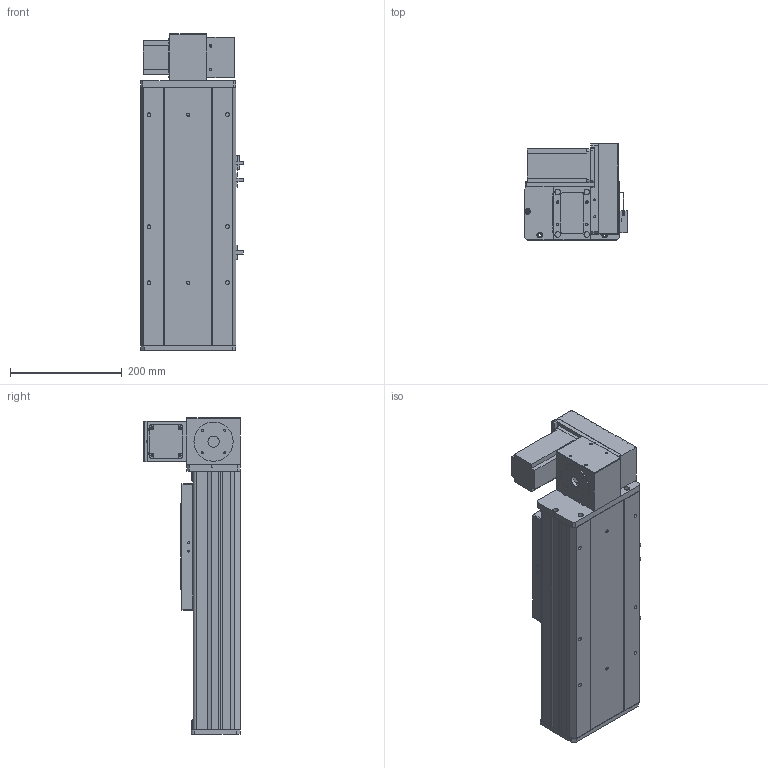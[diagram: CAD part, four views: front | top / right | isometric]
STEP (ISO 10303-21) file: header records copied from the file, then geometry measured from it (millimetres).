
FILE_DESCRIPTION (( 'STEP AP203' ), '1' );
FILE_NAME ('Y170CB-D105-S150-UR-P400W.STEP', '2020-02-20T03:36:38', ( '微软用户' ), ( '微软中国' ), 'SwSTEP 2.0', 'SolidWorks 2017', '' );
FILE_SCHEMA (( 'CONFIG_CONTROL_DESIGN' ));
Length unit declared in the file: millimetre
Products named in the file (18): 70CB-詩湍--; san松下电机400不带刹车----; Y100-135俋离換覜ん--; 70CB-掛极-; Y170CB-陔俋离換覜結え---; --70CB --喘謫眊楊擘啣-; Y1埴倛裔; 70CB-耜裔啣-; 17B-耜蚾蟀諉啣----; 70C--詩湍揤踡え-; 00B-俋欶BM--163; 70CB--耜裔; 70B喘謫眊----; 70C-雄赽釱-奻-; B-源倛裔啣; Y170CB-D105-S150-UR-P400W; 0C--雄赽釱俋欶-170; 0B-萇儂楊擘啣
Assembly tree (21 placements, depth 2):
  Y170CB-D105-S150-UR-P400W
    B-源倛裔啣
    0B-萇儂楊擘啣
    san松下电机400不带刹车----
    70CB-掛极-
    --70CB --喘謫眊楊擘啣-
    70CB-耜裔啣-  x2
    70C--詩湍揤踡え-  x2
    70CB--耜裔
    70C-雄赽釱-奻-
    0C--雄赽釱俋欶-170
    70CB-詩湍--
    Y100-135俋离換覜ん--  x3
    Y170CB-陔俋离換覜結え---
    Y1埴倛裔
    17B-耜蚾蟀諉啣----
    00B-俋欶BM--163
    70B喘謫眊----
Bounding box: 183.5 x 174 x 566 mm (x, y, z)
Volume: 3192503.4 mm3; surface area: 1125309.7 mm2
Topology: 21 solids, 21 shells, 975 faces, 2597 edges, 1722 vertices
Faces by surface type: cylinder 489, plane 462, cone 24
Entity records: 30868 total; most frequent: CARTESIAN_POINT 5616, DIRECTION 5018, ORIENTED_EDGE 4676, EDGE_CURVE 2338, AXIS2_PLACEMENT_3D 1828, VERTEX_POINT 1552, VECTOR 1362, LINE 1362
